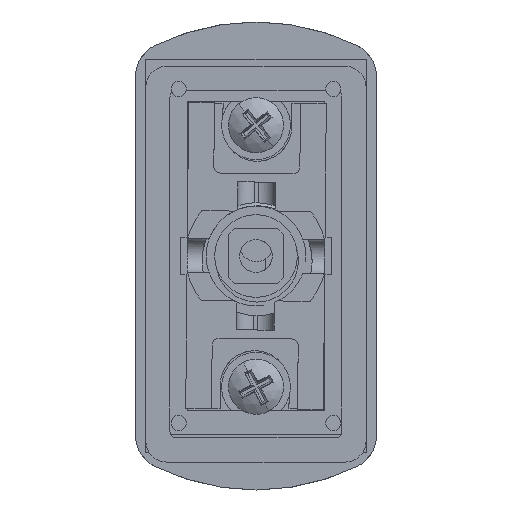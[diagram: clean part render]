
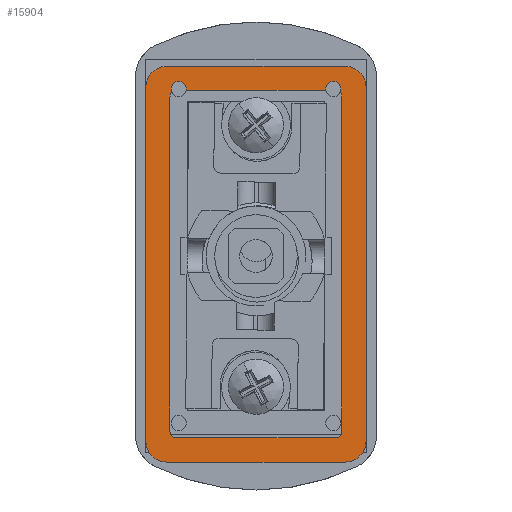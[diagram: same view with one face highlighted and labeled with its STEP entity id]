
A CAD part, front view. The second image highlights one B-rep face of the part: STEP entity #15904.
In plain terms, the highlighted planar face has unit normal (0, -1, 0) as drawn and (0, 0, -1) by its records, which use the part's own axes.
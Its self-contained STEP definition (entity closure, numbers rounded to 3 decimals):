
#15823 = ORIENTED_EDGE ( 'NONE', *, *, #15890, .T. ) ;
#15824 = EDGE_CURVE ( 'NONE', #15906, #15871, #24254, .T. ) ;
#15825 = VERTEX_POINT ( 'NONE', #24247 ) ;
#15826 = EDGE_CURVE ( 'NONE', #15871, #15825, #24264, .T. ) ;
#15827 = ORIENTED_EDGE ( 'NONE', *, *, #15826, .T. ) ;
#15828 = EDGE_CURVE ( 'NONE', #15825, #15875, #24253, .T. ) ;
#15840 = VERTEX_POINT ( 'NONE', #24243 ) ;
#15855 = VERTEX_POINT ( 'NONE', #24304 ) ;
#15856 = ORIENTED_EDGE ( 'NONE', *, *, #15868, .F. ) ;
#15861 = ORIENTED_EDGE ( 'NONE', *, *, #15902, .T. ) ;
#15862 = EDGE_CURVE ( 'NONE', #15879, #15923, #24333, .T. ) ;
#15863 = ORIENTED_EDGE ( 'NONE', *, *, #15926, .F. ) ;
#15864 = VERTEX_POINT ( 'NONE', #24305 ) ;
#15865 = VERTEX_POINT ( 'NONE', #24334 ) ;
#15866 = ORIENTED_EDGE ( 'NONE', *, *, #15867, .F. ) ;
#15867 = EDGE_CURVE ( 'NONE', #15865, #15840, #24327, .T. ) ;
#15868 = EDGE_CURVE ( 'NONE', #15840, #15864, #23821, .T. ) ;
#15869 = VERTEX_POINT ( 'NONE', #24095 ) ;
#15870 = VERTEX_POINT ( 'NONE', #24093 ) ;
#15871 = VERTEX_POINT ( 'NONE', #23657 ) ;
#15872 = ORIENTED_EDGE ( 'NONE', *, *, #15824, .T. ) ;
#15873 = ORIENTED_EDGE ( 'NONE', *, *, #15903, .F. ) ;
#15874 = EDGE_CURVE ( 'NONE', #15923, #15886, #23813, .T. ) ;
#15875 = VERTEX_POINT ( 'NONE', #24296 ) ;
#15876 = ORIENTED_EDGE ( 'NONE', *, *, #15924, .F. ) ;
#15877 = EDGE_LOOP ( 'NONE', ( #15878, #15889, #15823, #15872, #15827, #15891, #15861, #15888 ) ) ;
#15878 = ORIENTED_EDGE ( 'NONE', *, *, #15874, .T. ) ;
#15879 = VERTEX_POINT ( 'NONE', #24323 ) ;
#15882 = EDGE_CURVE ( 'NONE', #15870, #15865, #24666, .T. ) ;
#15883 = VERTEX_POINT ( 'NONE', #24654 ) ;
#15884 = ORIENTED_EDGE ( 'NONE', *, *, #15882, .F. ) ;
#15885 = EDGE_CURVE ( 'NONE', #15855, #15870, #24698, .T. ) ;
#15886 = VERTEX_POINT ( 'NONE', #24580 ) ;
#15887 = EDGE_CURVE ( 'NONE', #15886, #15892, #24667, .T. ) ;
#15888 = ORIENTED_EDGE ( 'NONE', *, *, #15862, .T. ) ;
#15889 = ORIENTED_EDGE ( 'NONE', *, *, #15887, .T. ) ;
#15890 = EDGE_CURVE ( 'NONE', #15892, #15906, #24648, .T. ) ;
#15891 = ORIENTED_EDGE ( 'NONE', *, *, #15828, .T. ) ;
#15892 = VERTEX_POINT ( 'NONE', #24449 ) ;
#15902 = EDGE_CURVE ( 'NONE', #15875, #15879, #24459, .T. ) ;
#15903 = EDGE_CURVE ( 'NONE', #15883, #15907, #24657, .T. ) ;
#15904 = ADVANCED_FACE ( 'NONE', ( #24485, #24452 ), #24569, .T. ) ;
#15905 = EDGE_LOOP ( 'NONE', ( #15856, #15866, #15884, #15921, #15925, #15863, #15873, #15876 ) ) ;
#15906 = VERTEX_POINT ( 'NONE', #24560 ) ;
#15907 = VERTEX_POINT ( 'NONE', #24546 ) ;
#15921 = ORIENTED_EDGE ( 'NONE', *, *, #15885, .F. ) ;
#15922 = EDGE_CURVE ( 'NONE', #15869, #15855, #24682, .T. ) ;
#15923 = VERTEX_POINT ( 'NONE', #24507 ) ;
#15924 = EDGE_CURVE ( 'NONE', #15864, #15883, #24473, .T. ) ;
#15925 = ORIENTED_EDGE ( 'NONE', *, *, #15922, .F. ) ;
#15926 = EDGE_CURVE ( 'NONE', #15907, #15869, #24629, .T. ) ;
#23553 = DIRECTION ( 'NONE',  ( -1., 0., 0. ) ) ;
#23554 = VECTOR ( 'NONE', #23553, 1000. ) ;
#23656 = CARTESIAN_POINT ( 'NONE',  ( 3., 29., 0. ) ) ;
#23657 = CARTESIAN_POINT ( 'NONE',  ( 4.5, 3.5, 0. ) ) ;
#23756 = DIRECTION ( 'NONE',  ( 0., 0., 1. ) ) ;
#23785 = DIRECTION ( 'NONE',  ( -1., 0., 0. ) ) ;
#23786 = CARTESIAN_POINT ( 'NONE',  ( 4.5, 28.5, 0. ) ) ;
#23813 = LINE ( 'NONE', #23786, #23931 ) ;
#23821 = CIRCLE ( 'NONE', #23874, 3. ) ;
#23874 = AXIS2_PLACEMENT_3D ( 'NONE', #23656, #23756, #23966 ) ;
#23931 = VECTOR ( 'NONE', #23785, 1000. ) ;
#23966 = DIRECTION ( 'NONE',  ( -1., 0., 0. ) ) ;
#24093 = CARTESIAN_POINT ( 'NONE',  ( 57.5, 29., 0. ) ) ;
#24095 = CARTESIAN_POINT ( 'NONE',  ( 54.5, 0., 0. ) ) ;
#24243 = CARTESIAN_POINT ( 'NONE',  ( 3., 32., 0. ) ) ;
#24247 = CARTESIAN_POINT ( 'NONE',  ( 53., 3.5, 0. ) ) ;
#24248 = CARTESIAN_POINT ( 'NONE',  ( 53., 4.5, 0. ) ) ;
#24249 = DIRECTION ( 'NONE',  ( -1., 0., 0. ) ) ;
#24250 = DIRECTION ( 'NONE',  ( 0., 0., 1. ) ) ;
#24251 = CARTESIAN_POINT ( 'NONE',  ( 4.5, 4.5, 0. ) ) ;
#24252 = AXIS2_PLACEMENT_3D ( 'NONE', #24251, #24250, #24249 ) ;
#24253 = CIRCLE ( 'NONE', #24340, 1. ) ;
#24254 = CIRCLE ( 'NONE', #24252, 1. ) ;
#24264 = LINE ( 'NONE', #24287, #24286 ) ;
#24285 = DIRECTION ( 'NONE',  ( 1., 0., 0. ) ) ;
#24286 = VECTOR ( 'NONE', #24285, 1000. ) ;
#24287 = CARTESIAN_POINT ( 'NONE',  ( 4.5, 3.5, 0. ) ) ;
#24295 = AXIS2_PLACEMENT_3D ( 'NONE', #24330, #24329, #24328 ) ;
#24296 = CARTESIAN_POINT ( 'NONE',  ( 54., 4.5, 0. ) ) ;
#24304 = CARTESIAN_POINT ( 'NONE',  ( 57.5, 3., 0. ) ) ;
#24305 = CARTESIAN_POINT ( 'NONE',  ( 0., 29., 0. ) ) ;
#24323 = CARTESIAN_POINT ( 'NONE',  ( 54., 27.5, 0. ) ) ;
#24326 = CARTESIAN_POINT ( 'NONE',  ( 3., 32., 0. ) ) ;
#24327 = LINE ( 'NONE', #24326, #23554 ) ;
#24328 = DIRECTION ( 'NONE',  ( 1., 0., 0. ) ) ;
#24329 = DIRECTION ( 'NONE',  ( 0., 0., 1. ) ) ;
#24330 = CARTESIAN_POINT ( 'NONE',  ( 53., 27.5, 0. ) ) ;
#24333 = CIRCLE ( 'NONE', #24295, 1. ) ;
#24334 = CARTESIAN_POINT ( 'NONE',  ( 54.5, 32., 0. ) ) ;
#24337 = DIRECTION ( 'NONE',  ( 1., 0., 0. ) ) ;
#24338 = DIRECTION ( 'NONE',  ( 0., 0., 1. ) ) ;
#24340 = AXIS2_PLACEMENT_3D ( 'NONE', #24248, #24338, #24337 ) ;
#24448 = DIRECTION ( 'NONE',  ( 0., 0., 1. ) ) ;
#24449 = CARTESIAN_POINT ( 'NONE',  ( 3.5, 27.5, 0. ) ) ;
#24452 = FACE_BOUND ( 'NONE', #15877, .T. ) ;
#24458 = CARTESIAN_POINT ( 'NONE',  ( 54., 4.5, 0. ) ) ;
#24459 = LINE ( 'NONE', #24458, #24564 ) ;
#24473 = LINE ( 'NONE', #24531, #24530 ) ;
#24482 = AXIS2_PLACEMENT_3D ( 'NONE', #24652, #24448, #24596 ) ;
#24485 = FACE_OUTER_BOUND ( 'NONE', #15905, .T. ) ;
#24503 = DIRECTION ( 'NONE',  ( 1., 0., 0. ) ) ;
#24504 = DIRECTION ( 'NONE',  ( 0., 0., 1. ) ) ;
#24507 = CARTESIAN_POINT ( 'NONE',  ( 53., 28.5, 0. ) ) ;
#24517 = DIRECTION ( 'NONE',  ( 1., 0., 0. ) ) ;
#24519 = VECTOR ( 'NONE', #24517, 1000. ) ;
#24521 = CARTESIAN_POINT ( 'NONE',  ( 3., 0., 0. ) ) ;
#24529 = DIRECTION ( 'NONE',  ( 0., -1., 0. ) ) ;
#24530 = VECTOR ( 'NONE', #24529, 1000. ) ;
#24531 = CARTESIAN_POINT ( 'NONE',  ( 0., 3., 0. ) ) ;
#24546 = CARTESIAN_POINT ( 'NONE',  ( 3., 0., 0. ) ) ;
#24549 = DIRECTION ( 'NONE',  ( -1., 0., 0. ) ) ;
#24551 = DIRECTION ( 'NONE',  ( 0., 0., -1. ) ) ;
#24552 = CARTESIAN_POINT ( 'NONE',  ( 3., 29., 0. ) ) ;
#24553 = AXIS2_PLACEMENT_3D ( 'NONE', #24552, #24551, #24549 ) ;
#24557 = AXIS2_PLACEMENT_3D ( 'NONE', #24607, #24605, #24603 ) ;
#24560 = CARTESIAN_POINT ( 'NONE',  ( 3.5, 4.5, 0. ) ) ;
#24562 = DIRECTION ( 'NONE',  ( 0., 1., 0. ) ) ;
#24564 = VECTOR ( 'NONE', #24562, 1000. ) ;
#24569 = PLANE ( 'NONE',  #24553 ) ;
#24580 = CARTESIAN_POINT ( 'NONE',  ( 4.5, 28.5, 0. ) ) ;
#24596 = DIRECTION ( 'NONE',  ( 1., 0., 0. ) ) ;
#24602 = AXIS2_PLACEMENT_3D ( 'NONE', #24632, #24504, #24503 ) ;
#24603 = DIRECTION ( 'NONE',  ( 1., 0., 0. ) ) ;
#24605 = DIRECTION ( 'NONE',  ( 0., 0., 1. ) ) ;
#24607 = CARTESIAN_POINT ( 'NONE',  ( 3., 3., 0. ) ) ;
#24613 = AXIS2_PLACEMENT_3D ( 'NONE', #24664, #24663, #24662 ) ;
#24629 = LINE ( 'NONE', #24521, #24519 ) ;
#24632 = CARTESIAN_POINT ( 'NONE',  ( 54.5, 3., 0. ) ) ;
#24648 = LINE ( 'NONE', #24661, #24704 ) ;
#24652 = CARTESIAN_POINT ( 'NONE',  ( 54.5, 29., 0. ) ) ;
#24654 = CARTESIAN_POINT ( 'NONE',  ( 0., 3., 0. ) ) ;
#24657 = CIRCLE ( 'NONE', #24557, 3. ) ;
#24660 = DIRECTION ( 'NONE',  ( 0., -1., 0. ) ) ;
#24661 = CARTESIAN_POINT ( 'NONE',  ( 3.5, 4.5, 0. ) ) ;
#24662 = DIRECTION ( 'NONE',  ( -1., 0., 0. ) ) ;
#24663 = DIRECTION ( 'NONE',  ( 0., 0., 1. ) ) ;
#24664 = CARTESIAN_POINT ( 'NONE',  ( 4.5, 27.5, 0. ) ) ;
#24666 = CIRCLE ( 'NONE', #24482, 3. ) ;
#24667 = CIRCLE ( 'NONE', #24613, 1. ) ;
#24682 = CIRCLE ( 'NONE', #24602, 3. ) ;
#24698 = LINE ( 'NONE', #24702, #24701 ) ;
#24699 = DIRECTION ( 'NONE',  ( 0., 1., 0. ) ) ;
#24701 = VECTOR ( 'NONE', #24699, 1000. ) ;
#24702 = CARTESIAN_POINT ( 'NONE',  ( 57.5, 3., 0. ) ) ;
#24704 = VECTOR ( 'NONE', #24660, 1000. ) ;
